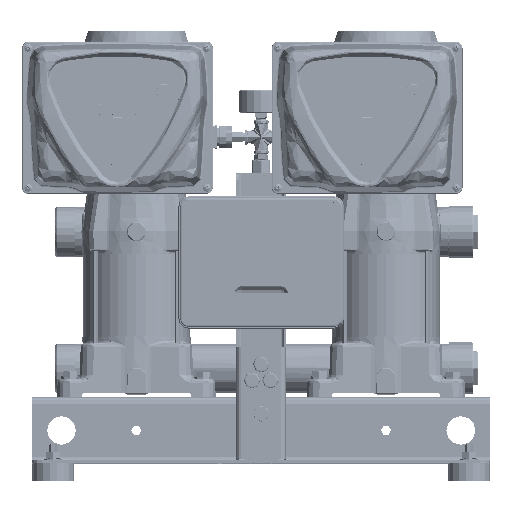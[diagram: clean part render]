
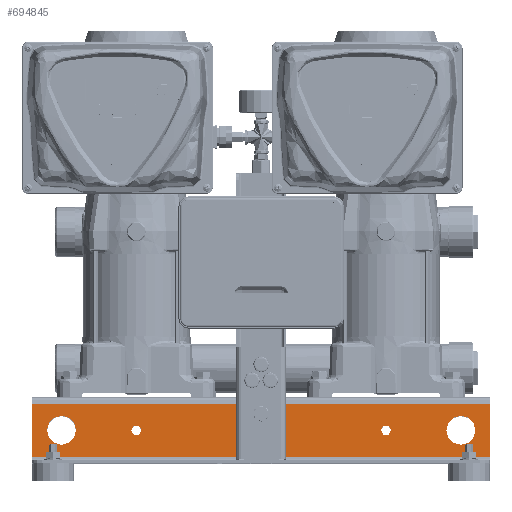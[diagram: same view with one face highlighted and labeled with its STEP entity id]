
A CAD part, top view. The second image highlights one B-rep face of the part: STEP entity #694845.
In plain terms, the highlighted planar face has unit normal (0, 0, 1) as drawn and (0, 0, -1) by its records, which use the part's own axes.
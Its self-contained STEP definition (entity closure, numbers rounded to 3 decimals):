
#688576=DIRECTION('',(1.,0.,0.));
#688577=VECTOR('',#688576,550.);
#688578=CARTESIAN_POINT('',(-275.,-8.,-150.));
#688579=LINE('',#688578,#688577);
#690806=DIRECTION('',(0.,1.,0.));
#690807=VECTOR('',#690806,64.);
#690808=CARTESIAN_POINT('',(-275.,-72.,-150.));
#690809=LINE('',#690808,#690807);
#690827=DIRECTION('',(1.,0.,0.));
#690828=VECTOR('',#690827,550.);
#690829=CARTESIAN_POINT('',(-275.,-72.,-150.));
#690830=LINE('',#690829,#690828);
#690857=DIRECTION('',(0.,1.,0.));
#690858=VECTOR('',#690857,26.);
#690859=CARTESIAN_POINT('',(-26.7,-40.,-150.));
#690860=LINE('',#690859,#690858);
#690864=DIRECTION('',(1.,0.,0.));
#690865=VECTOR('',#690864,3.6);
#690866=CARTESIAN_POINT('',(-30.3,-40.,-150.));
#690867=LINE('',#690866,#690865);
#690871=DIRECTION('',(0.,-1.,0.));
#690872=VECTOR('',#690871,26.);
#690873=CARTESIAN_POINT('',(-30.3,-14.,-150.));
#690874=LINE('',#690873,#690872);
#690878=DIRECTION('',(-1.,0.,0.));
#690879=VECTOR('',#690878,3.6);
#690880=CARTESIAN_POINT('',(-26.7,-14.,-150.));
#690881=LINE('',#690880,#690879);
#690885=DIRECTION('',(0.,1.,0.));
#690886=VECTOR('',#690885,26.);
#690887=CARTESIAN_POINT('',(30.3,-40.,-150.));
#690888=LINE('',#690887,#690886);
#690892=DIRECTION('',(1.,0.,0.));
#690893=VECTOR('',#690892,3.6);
#690894=CARTESIAN_POINT('',(26.7,-40.,-150.));
#690895=LINE('',#690894,#690893);
#690899=DIRECTION('',(0.,-1.,0.));
#690900=VECTOR('',#690899,26.);
#690901=CARTESIAN_POINT('',(26.7,-14.,-150.));
#690902=LINE('',#690901,#690900);
#690906=DIRECTION('',(-1.,0.,0.));
#690907=VECTOR('',#690906,3.6);
#690908=CARTESIAN_POINT('',(30.3,-14.,-150.));
#690909=LINE('',#690908,#690907);
#690913=CARTESIAN_POINT('',(0.,-20.,-150.));
#690914=DIRECTION('',(0.,0.,-1.));
#690915=DIRECTION('',(1.,0.,0.));
#690916=AXIS2_PLACEMENT_3D('',#690913,#690914,#690915);
#690921=CARTESIAN_POINT('',(0.,-20.,-150.));
#690922=DIRECTION('',(0.,0.,-1.));
#690923=DIRECTION('',(-1.,0.,0.));
#690924=AXIS2_PLACEMENT_3D('',#690921,#690922,#690923);
#690929=CARTESIAN_POINT('',(-240.,-40.,-150.));
#690930=DIRECTION('',(0.,0.,1.));
#690931=DIRECTION('',(-1.,0.,0.));
#690932=AXIS2_PLACEMENT_3D('',#690929,#690930,#690931);
#690937=CARTESIAN_POINT('',(-240.,-40.,-150.));
#690938=DIRECTION('',(0.,0.,1.));
#690939=DIRECTION('',(1.,0.,0.));
#690940=AXIS2_PLACEMENT_3D('',#690937,#690938,#690939);
#690945=CARTESIAN_POINT('',(240.,-40.,-150.));
#690946=DIRECTION('',(0.,0.,1.));
#690947=DIRECTION('',(-1.,0.,0.));
#690948=AXIS2_PLACEMENT_3D('',#690945,#690946,#690947);
#690953=CARTESIAN_POINT('',(240.,-40.,-150.));
#690954=DIRECTION('',(0.,0.,1.));
#690955=DIRECTION('',(1.,0.,0.));
#690956=AXIS2_PLACEMENT_3D('',#690953,#690954,#690955);
#690961=CARTESIAN_POINT('',(-150.,-40.,-150.));
#690962=DIRECTION('',(0.,0.,1.));
#690963=DIRECTION('',(1.,0.,0.));
#690964=AXIS2_PLACEMENT_3D('',#690961,#690962,#690963);
#690969=CARTESIAN_POINT('',(-150.,-40.,-150.));
#690970=DIRECTION('',(0.,0.,1.));
#690971=DIRECTION('',(-1.,0.,0.));
#690972=AXIS2_PLACEMENT_3D('',#690969,#690970,#690971);
#690977=CARTESIAN_POINT('',(150.,-40.,-150.));
#690978=DIRECTION('',(0.,0.,-1.));
#690979=DIRECTION('',(-1.,0.,0.));
#690980=AXIS2_PLACEMENT_3D('',#690977,#690978,#690979);
#690985=CARTESIAN_POINT('',(150.,-40.,-150.));
#690986=DIRECTION('',(0.,0.,-1.));
#690987=DIRECTION('',(1.,0.,0.));
#690988=AXIS2_PLACEMENT_3D('',#690985,#690986,#690987);
#691007=DIRECTION('',(0.,1.,0.));
#691008=VECTOR('',#691007,64.);
#691009=CARTESIAN_POINT('',(275.,-72.,-150.));
#691010=LINE('',#691009,#691008);
#692572=CARTESIAN_POINT('',(-275.,-72.,-150.));
#692573=CARTESIAN_POINT('',(-275.,-8.,-150.));
#692574=VERTEX_POINT('',#692572);
#692575=VERTEX_POINT('',#692573);
#692576=CARTESIAN_POINT('',(275.,-72.,-150.));
#692577=CARTESIAN_POINT('',(275.,-8.,-150.));
#692578=VERTEX_POINT('',#692576);
#692579=VERTEX_POINT('',#692577);
#692932=CARTESIAN_POINT('',(-26.7,-40.,-150.));
#692933=CARTESIAN_POINT('',(-26.7,-14.,-150.));
#692934=VERTEX_POINT('',#692932);
#692935=VERTEX_POINT('',#692933);
#692936=CARTESIAN_POINT('',(-30.3,-14.,-150.));
#692937=VERTEX_POINT('',#692936);
#692938=CARTESIAN_POINT('',(-30.3,-40.,-150.));
#692939=VERTEX_POINT('',#692938);
#692940=CARTESIAN_POINT('',(30.3,-40.,-150.));
#692941=CARTESIAN_POINT('',(30.3,-14.,-150.));
#692942=VERTEX_POINT('',#692940);
#692943=VERTEX_POINT('',#692941);
#692944=CARTESIAN_POINT('',(26.7,-14.,-150.));
#692945=VERTEX_POINT('',#692944);
#692946=CARTESIAN_POINT('',(26.7,-40.,-150.));
#692947=VERTEX_POINT('',#692946);
#692964=CARTESIAN_POINT('',(6.25,-20.,-150.));
#692965=CARTESIAN_POINT('',(-6.25,-20.,-150.));
#692966=VERTEX_POINT('',#692964);
#692967=VERTEX_POINT('',#692965);
#692988=CARTESIAN_POINT('',(-257.5,-40.,-150.));
#692989=CARTESIAN_POINT('',(-222.5,-40.,-150.));
#692990=VERTEX_POINT('',#692988);
#692991=VERTEX_POINT('',#692989);
#692992=CARTESIAN_POINT('',(222.5,-40.,-150.));
#692993=CARTESIAN_POINT('',(257.5,-40.,-150.));
#692994=VERTEX_POINT('',#692992);
#692995=VERTEX_POINT('',#692993);
#693088=CARTESIAN_POINT('',(-143.75,-40.,-150.));
#693089=CARTESIAN_POINT('',(-156.25,-40.,-150.));
#693090=VERTEX_POINT('',#693088);
#693091=VERTEX_POINT('',#693089);
#693100=CARTESIAN_POINT('',(143.75,-40.,-150.));
#693102=VERTEX_POINT('',#693100);
#693108=CARTESIAN_POINT('',(156.25,-40.,-150.));
#693110=VERTEX_POINT('',#693108);
#694783=CARTESIAN_POINT('',(-275.,-76.,-150.));
#694784=DIRECTION('',(0.,0.,-1.));
#694785=DIRECTION('',(0.,1.,0.));
#694786=AXIS2_PLACEMENT_3D('',#694783,#694784,#694785);
#694787=PLANE('',#694786);
#694788=ORIENTED_EDGE('',*,*,#694736,.F.);
#694789=ORIENTED_EDGE('',*,*,#694773,.T.);
#694791=ORIENTED_EDGE('',*,*,#694790,.T.);
#694792=ORIENTED_EDGE('',*,*,#693844,.F.);
#694793=EDGE_LOOP('',(#694788,#694789,#694791,#694792));
#694794=FACE_OUTER_BOUND('',#694793,.F.);
#694796=ORIENTED_EDGE('',*,*,#694795,.F.);
#694798=ORIENTED_EDGE('',*,*,#694797,.F.);
#694800=ORIENTED_EDGE('',*,*,#694799,.F.);
#694802=ORIENTED_EDGE('',*,*,#694801,.F.);
#694803=EDGE_LOOP('',(#694796,#694798,#694800,#694802));
#694804=FACE_BOUND('',#694803,.F.);
#694806=ORIENTED_EDGE('',*,*,#694805,.F.);
#694808=ORIENTED_EDGE('',*,*,#694807,.F.);
#694810=ORIENTED_EDGE('',*,*,#694809,.F.);
#694812=ORIENTED_EDGE('',*,*,#694811,.F.);
#694813=EDGE_LOOP('',(#694806,#694808,#694810,#694812));
#694814=FACE_BOUND('',#694813,.F.);
#694816=ORIENTED_EDGE('',*,*,#694815,.T.);
#694818=ORIENTED_EDGE('',*,*,#694817,.T.);
#694819=EDGE_LOOP('',(#694816,#694818));
#694820=FACE_BOUND('',#694819,.F.);
#694822=ORIENTED_EDGE('',*,*,#694821,.F.);
#694824=ORIENTED_EDGE('',*,*,#694823,.F.);
#694825=EDGE_LOOP('',(#694822,#694824));
#694826=FACE_BOUND('',#694825,.F.);
#694828=ORIENTED_EDGE('',*,*,#694827,.F.);
#694830=ORIENTED_EDGE('',*,*,#694829,.F.);
#694831=EDGE_LOOP('',(#694828,#694830));
#694832=FACE_BOUND('',#694831,.F.);
#694834=ORIENTED_EDGE('',*,*,#694833,.F.);
#694836=ORIENTED_EDGE('',*,*,#694835,.F.);
#694837=EDGE_LOOP('',(#694834,#694836));
#694838=FACE_BOUND('',#694837,.F.);
#694840=ORIENTED_EDGE('',*,*,#694839,.T.);
#694842=ORIENTED_EDGE('',*,*,#694841,.T.);
#694843=EDGE_LOOP('',(#694840,#694842));
#694844=FACE_BOUND('',#694843,.F.);
#690917=CIRCLE('',#690916,6.25);
#690925=CIRCLE('',#690924,6.25);
#690933=CIRCLE('',#690932,17.5);
#690941=CIRCLE('',#690940,17.5);
#690949=CIRCLE('',#690948,17.5);
#690957=CIRCLE('',#690956,17.5);
#690965=CIRCLE('',#690964,6.25);
#690973=CIRCLE('',#690972,6.25);
#690981=CIRCLE('',#690980,6.25);
#690989=CIRCLE('',#690988,6.25);
#693844=EDGE_CURVE('',#692575,#692579,#688579,.T.);
#694736=EDGE_CURVE('',#692574,#692575,#690809,.T.);
#694773=EDGE_CURVE('',#692574,#692578,#690830,.T.);
#694790=EDGE_CURVE('',#692578,#692579,#691010,.T.);
#694795=EDGE_CURVE('',#692934,#692935,#690860,.T.);
#694797=EDGE_CURVE('',#692939,#692934,#690867,.T.);
#694799=EDGE_CURVE('',#692937,#692939,#690874,.T.);
#694801=EDGE_CURVE('',#692935,#692937,#690881,.T.);
#694805=EDGE_CURVE('',#692942,#692943,#690888,.T.);
#694807=EDGE_CURVE('',#692947,#692942,#690895,.T.);
#694809=EDGE_CURVE('',#692945,#692947,#690902,.T.);
#694811=EDGE_CURVE('',#692943,#692945,#690909,.T.);
#694815=EDGE_CURVE('',#692966,#692967,#690917,.T.);
#694817=EDGE_CURVE('',#692967,#692966,#690925,.T.);
#694821=EDGE_CURVE('',#692990,#692991,#690933,.T.);
#694823=EDGE_CURVE('',#692991,#692990,#690941,.T.);
#694827=EDGE_CURVE('',#692994,#692995,#690949,.T.);
#694829=EDGE_CURVE('',#692995,#692994,#690957,.T.);
#694833=EDGE_CURVE('',#693090,#693091,#690965,.T.);
#694835=EDGE_CURVE('',#693091,#693090,#690973,.T.);
#694839=EDGE_CURVE('',#693102,#693110,#690981,.T.);
#694841=EDGE_CURVE('',#693110,#693102,#690989,.T.);
#694845=ADVANCED_FACE('',(#694794,#694804,#694814,#694820,#694826,#694832,
#694838,#694844),#694787,.T.);
